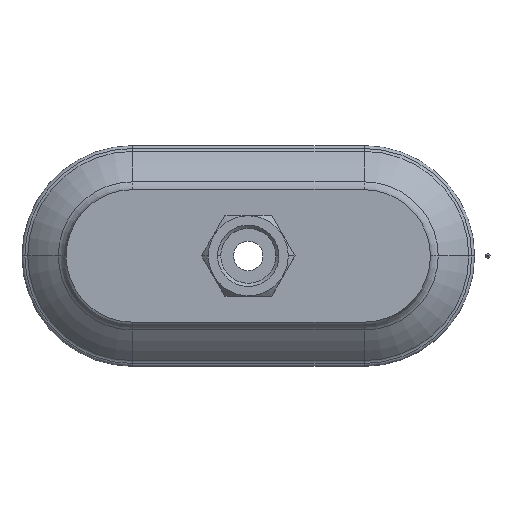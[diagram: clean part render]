
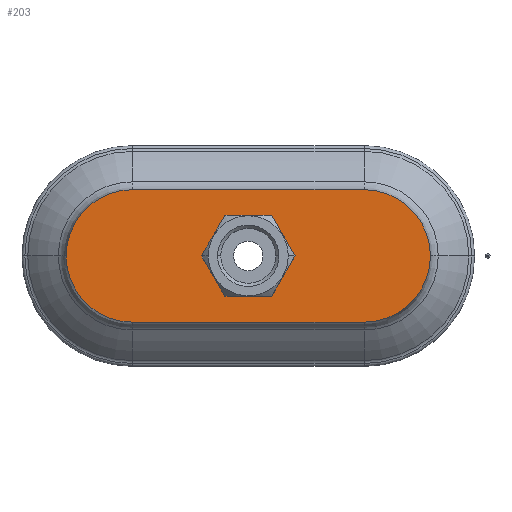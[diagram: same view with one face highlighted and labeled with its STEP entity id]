
A CAD part, top view. The second image highlights one B-rep face of the part: STEP entity #203.
In plain terms, the highlighted planar face has unit normal (0, 0, 1).
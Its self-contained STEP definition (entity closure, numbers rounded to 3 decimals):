
#203=ADVANCED_FACE('',(#453,#454),#455,.T.);
#453=FACE_OUTER_BOUND('',#749,.T.);
#454=FACE_BOUND('',#750,.T.);
#455=PLANE('',#751);
#749=EDGE_LOOP('',(#1252,#1253,#1254,#1255));
#750=EDGE_LOOP('',(#1256,#1257));
#751=AXIS2_PLACEMENT_3D('',#1258,#1259,#1260);
#1252=ORIENTED_EDGE('',*,*,#1837,.F.);
#1253=ORIENTED_EDGE('',*,*,#1838,.F.);
#1254=ORIENTED_EDGE('',*,*,#1839,.F.);
#1255=ORIENTED_EDGE('',*,*,#1840,.F.);
#1256=ORIENTED_EDGE('',*,*,#1759,.T.);
#1257=ORIENTED_EDGE('',*,*,#1832,.T.);
#1258=CARTESIAN_POINT('',(31.5,9.,18.0));
#1259=DIRECTION('',(0.,0.,1.0));
#1260=DIRECTION('',(1.0,0.,0.0));
#1759=EDGE_CURVE('',#2106,#2110,#2112,.T.);
#1832=EDGE_CURVE('',#2110,#2106,#2211,.T.);
#1837=EDGE_CURVE('',#2216,#2217,#2218,.T.);
#1838=EDGE_CURVE('',#2219,#2216,#2220,.T.);
#1839=EDGE_CURVE('',#2221,#2219,#2222,.T.);
#1840=EDGE_CURVE('',#2217,#2221,#2223,.T.);
#2106=VERTEX_POINT('',#2514);
#2110=VERTEX_POINT('',#2519);
#2112=CIRCLE('',#2522,10.875);
#2211=CIRCLE('',#2749,10.875);
#2216=VERTEX_POINT('',#2754);
#2217=VERTEX_POINT('',#2755);
#2218=CIRCLE('',#2756,18.);
#2219=VERTEX_POINT('',#2757);
#2220=LINE('',#2758,#2759);
#2221=VERTEX_POINT('',#2760);
#2222=CIRCLE('',#2761,18.);
#2223=LINE('',#2762,#2763);
#2514=CARTESIAN_POINT('',(10.875,0.0,18.0));
#2519=CARTESIAN_POINT('',(-10.875,0.,18.0));
#2522=AXIS2_PLACEMENT_3D('',#3141,#3142,#3143);
#2749=AXIS2_PLACEMENT_3D('',#3215,#3216,#3217);
#2754=CARTESIAN_POINT('',(31.5,18.,18.0));
#2755=CARTESIAN_POINT('',(31.5,-18.,18.0));
#2756=AXIS2_PLACEMENT_3D('',#3221,#3222,#3223);
#2757=CARTESIAN_POINT('',(-31.5,18.,18.0));
#2758=CARTESIAN_POINT('',(-31.5,18.,18.0));
#2759=VECTOR('',#3224,1.0);
#2760=CARTESIAN_POINT('',(-31.5,-18.,18.0));
#2761=AXIS2_PLACEMENT_3D('',#3225,#3226,#3227);
#2762=CARTESIAN_POINT('',(31.5,-18.,18.0));
#2763=VECTOR('',#3228,1.0);
#3141=CARTESIAN_POINT('',(0.0,0.,18.0));
#3142=DIRECTION('',(0.,0.,-1.0));
#3143=DIRECTION('',(1.0,0.,0.));
#3215=CARTESIAN_POINT('',(0.0,0.,18.0));
#3216=DIRECTION('',(0.,0.,-1.0));
#3217=DIRECTION('',(1.0,0.,0.));
#3221=CARTESIAN_POINT('',(31.5,0.,18.0));
#3222=DIRECTION('',(0.,0.,-1.0));
#3223=DIRECTION('',(0.,1.0,0.0));
#3224=DIRECTION('',(1.0,0.,0.));
#3225=CARTESIAN_POINT('',(-31.5,0.,18.0));
#3226=DIRECTION('',(0.,0.,-1.0));
#3227=DIRECTION('',(0.,-1.0,0.0));
#3228=DIRECTION('',(-1.0,0.,0.));
